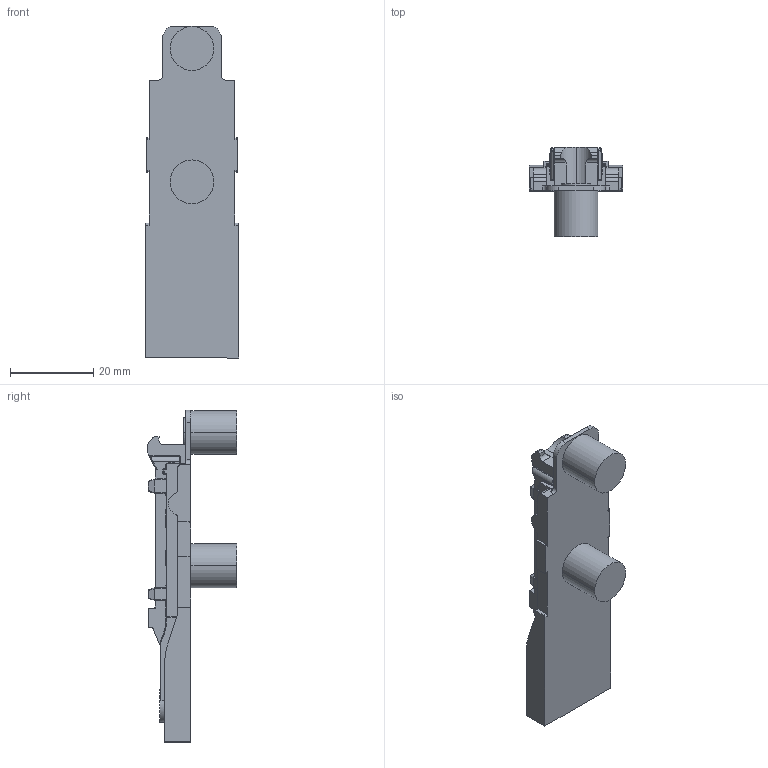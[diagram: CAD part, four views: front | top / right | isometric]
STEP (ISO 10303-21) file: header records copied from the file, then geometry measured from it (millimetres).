
FILE_DESCRIPTION (( 'STEP AP203' ), '1' );
FILE_NAME ('81H2MYQA.STEP', '2024-07-27T06:07:26', ( '微软用户' ), ( '微软中国' ), 'SwSTEP 2.0', 'SolidWorks 2021', '' );
FILE_SCHEMA (( 'CONFIG_CONTROL_DESIGN' ));
Length unit declared in the file: millimetre
Products named in the file (1): 81H2MYQA
Bounding box: 22.4 x 21.5 x 79.7 mm (x, y, z)
Volume: 12094 mm3; surface area: 5821.6 mm2
Topology: 1 solids, 1 shells, 525 faces, 1364 edges, 807 vertices
Faces by surface type: cylinder 215, plane 118, bspline 77, torus 74, sphere 41
Entity records: 18028 total; most frequent: CARTESIAN_POINT 5845, ORIENTED_EDGE 2650, DIRECTION 2459, EDGE_CURVE 1325, AXIS2_PLACEMENT_3D 930, VERTEX_POINT 807, LINE 599, VECTOR 599
